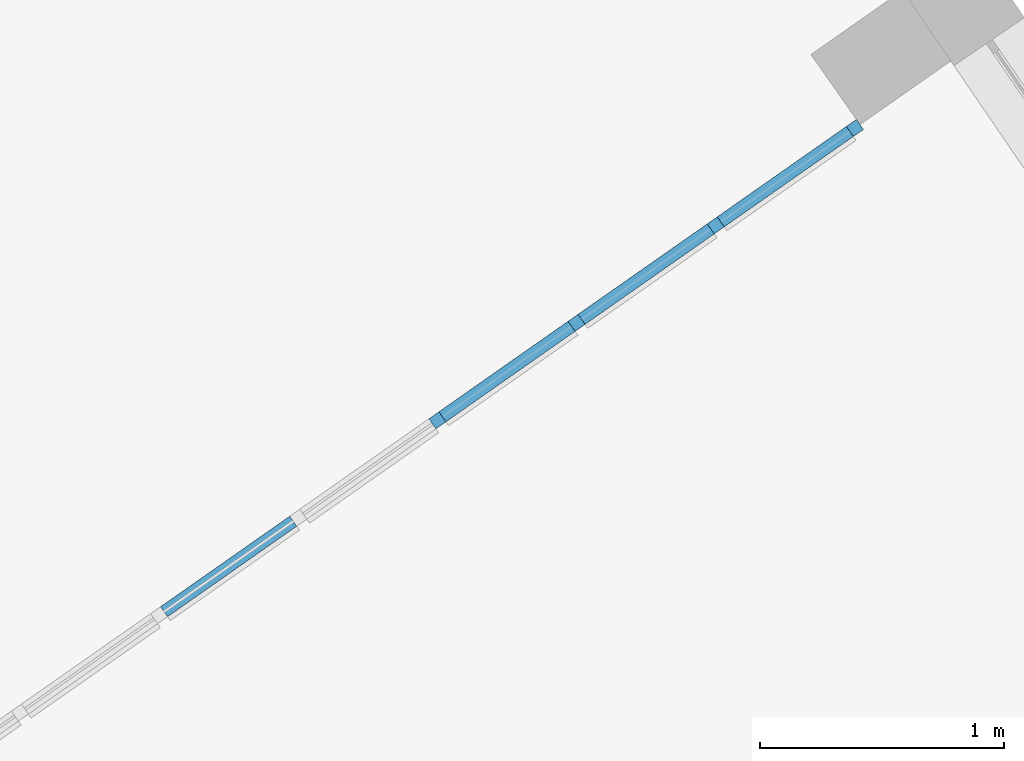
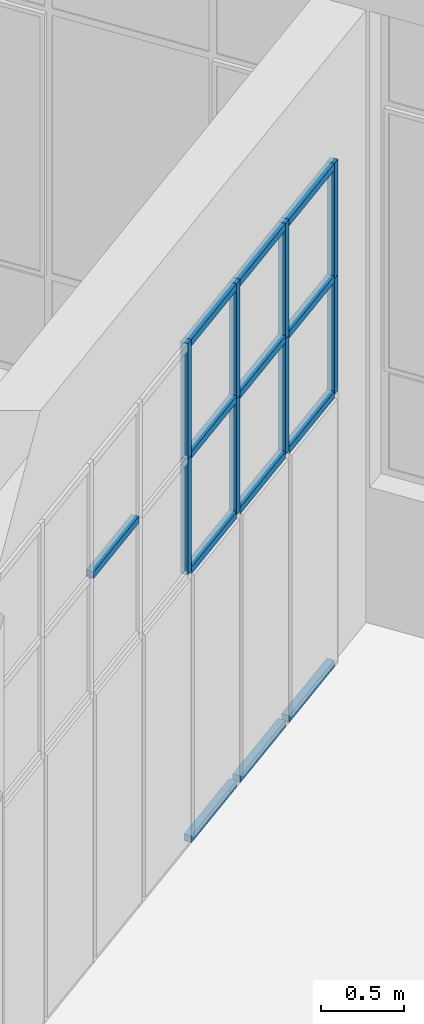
# One storey, part 37 of 157: 21 members, 1 element without a shape of its own.
"""IFC2X3 building model written with IfcOpenShell, lengths in millimetres."""

from ifc_helpers import new_model, entity, si_unit, converted_unit, derived_unit, direction, frame, origin, origin_2d_with_axis, place, context, subcontext, project, spatial, rectangle, extrude, source, transform, mapped, material, type_object, type_shapes, element, aggregate, save


model = new_model("IFC2X3")

# Units and contexts
model_context = context("Model", 3, precision=0.01, world=origin(), true_north=direction((6.123031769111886e-17, 1.0)))
body_context = subcontext(model_context, "Body", "Model", "MODEL_VIEW")
ifc_project = project(units=[si_unit("LENGTHUNIT", "METRE", prefix="MILLI"), si_unit("AREAUNIT", "SQUARE_METRE"), si_unit("VOLUMEUNIT", "CUBIC_METRE"), converted_unit("PLANEANGLEUNIT", "DEGREE", entity("IfcRatioMeasure", 0.017453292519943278), si_unit("PLANEANGLEUNIT", "RADIAN"), dimensions=[0, 0, 0, 0, 0, 0, 0]), si_unit("MASSUNIT", "GRAM", prefix="KILO"), derived_unit("MASSDENSITYUNIT", [(si_unit("MASSUNIT", "GRAM", prefix="KILO"), 1), (si_unit("LENGTHUNIT", "METRE"), -3)]), derived_unit("MOMENTOFINERTIAUNIT", [(si_unit("LENGTHUNIT", "METRE"), 4)]), si_unit("TIMEUNIT", "SECOND"), si_unit("FREQUENCYUNIT", "HERTZ"), si_unit("THERMODYNAMICTEMPERATUREUNIT", "DEGREE_CELSIUS"), derived_unit("THERMALTRANSMITTANCEUNIT", [(si_unit("MASSUNIT", "GRAM", prefix="KILO"), 1), (si_unit("THERMODYNAMICTEMPERATUREUNIT", "KELVIN"), -1), (si_unit("TIMEUNIT", "SECOND"), -3)]), derived_unit("THERMALCONDUCTANCEUNIT", [(si_unit("MASSUNIT", "GRAM", prefix="KILO"), 1), (si_unit("LENGTHUNIT", "METRE"), 1), (si_unit("THERMODYNAMICTEMPERATUREUNIT", "KELVIN"), -1), (si_unit("TIMEUNIT", "SECOND"), -3)]), derived_unit("VOLUMETRICFLOWRATEUNIT", [(si_unit("LENGTHUNIT", "METRE"), 3), (si_unit("TIMEUNIT", "SECOND"), -1)]), derived_unit("MASSFLOWRATEUNIT", [(si_unit("MASSUNIT", "GRAM", prefix="KILO"), 1), (si_unit("TIMEUNIT", "SECOND"), -1)]), derived_unit("ROTATIONALFREQUENCYUNIT", [(si_unit("TIMEUNIT", "SECOND"), -1)]), si_unit("ELECTRICCURRENTUNIT", "AMPERE"), si_unit("ELECTRICVOLTAGEUNIT", "VOLT"), si_unit("POWERUNIT", "WATT"), converted_unit("FORCEUNIT", "KIP", entity("IfcRatioMeasure", 2.088543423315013e-05), si_unit("FORCEUNIT", "NEWTON"), dimensions=[1, 1, -2, 0, 0, 0, 0]), si_unit("ILLUMINANCEUNIT", "LUX"), si_unit("LUMINOUSFLUXUNIT", "LUMEN"), si_unit("LUMINOUSINTENSITYUNIT", "CANDELA"), derived_unit("USERDEFINED", [(si_unit("MASSUNIT", "GRAM", prefix="KILO"), -1), (si_unit("LENGTHUNIT", "METRE"), -2), (si_unit("TIMEUNIT", "SECOND"), 3), (si_unit("LUMINOUSFLUXUNIT", "LUMEN"), 1)]), derived_unit("USERDEFINED", [(si_unit("MASSUNIT", "GRAM", prefix="KILO"), 1), (si_unit("LENGTHUNIT", "METRE"), 3), (si_unit("TIMEUNIT", "SECOND"), -3), (si_unit("ELECTRICCURRENTUNIT", "AMPERE"), -2)]), derived_unit("USERDEFINED", [(si_unit("LENGTHUNIT", "METRE"), 2), (si_unit("TIMEUNIT", "SECOND"), -2)]), derived_unit("SOUNDPOWERUNIT", [(si_unit("MASSUNIT", "GRAM", prefix="KILO"), 1), (si_unit("LENGTHUNIT", "METRE"), 2), (si_unit("TIMEUNIT", "SECOND"), -3)]), derived_unit("SOUNDPRESSUREUNIT", [(si_unit("MASSUNIT", "GRAM", prefix="KILO"), 1), (si_unit("LENGTHUNIT", "METRE"), -1), (si_unit("TIMEUNIT", "SECOND"), -2)]), derived_unit("LINEARVELOCITYUNIT", [(si_unit("LENGTHUNIT", "METRE"), 1), (si_unit("TIMEUNIT", "SECOND"), -1)]), si_unit("PRESSUREUNIT", "PASCAL"), derived_unit("USERDEFINED", [(si_unit("LENGTHUNIT", "METRE"), -2), (si_unit("MASSUNIT", "GRAM", prefix="KILO"), 1), (si_unit("TIMEUNIT", "SECOND"), -2)]), derived_unit("LINEARFORCEUNIT", [(si_unit("MASSUNIT", "GRAM", prefix="KILO"), 1), (si_unit("LENGTHUNIT", "METRE"), 1), (si_unit("TIMEUNIT", "SECOND"), -2), (si_unit("LENGTHUNIT", "METRE"), -1)]), derived_unit("PLANARFORCEUNIT", [(si_unit("MASSUNIT", "GRAM", prefix="KILO"), 1), (si_unit("LENGTHUNIT", "METRE"), 1), (si_unit("TIMEUNIT", "SECOND"), -2), (si_unit("LENGTHUNIT", "METRE"), -2)]), derived_unit("SPECIFICHEATCAPACITYUNIT", [(si_unit("LENGTHUNIT", "METRE"), 2), (si_unit("TIMEUNIT", "SECOND"), -2), (si_unit("THERMODYNAMICTEMPERATUREUNIT", "KELVIN"), -1)]), derived_unit("VAPORPERMEABILITYUNIT", [(si_unit("TIMEUNIT", "SECOND"), 1), (si_unit("LENGTHUNIT", "METRE"), -1)]), derived_unit("DYNAMICVISCOSITYUNIT", [(si_unit("MASSUNIT", "GRAM", prefix="KILO"), 1), (si_unit("LENGTHUNIT", "METRE"), -1), (si_unit("TIMEUNIT", "SECOND"), -1)]), derived_unit("THERMALEXPANSIONCOEFFICIENTUNIT", [(si_unit("THERMODYNAMICTEMPERATUREUNIT", "KELVIN"), -1)])], contexts=[model_context])

# Site, building, storey
site_placement = place(None, frame((0.0, 0.0, 0.0), z_axis=(0.0, 0.0, 1.0), x_axis=(0.8191520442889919, 0.5735764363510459, 0.0)))
site = spatial("IfcSite", under=ifc_project, at=site_placement, Name="Default", CompositionType="ELEMENT")
building_placement = place(site_placement, origin())
building = spatial("IfcBuilding", under=site, at=building_placement, CompositionType="ELEMENT")
storey_placement = place(building_placement, origin())
storey = spatial("IfcBuildingStorey", under=building, at=storey_placement, Name="1.EG +0.00", CompositionType="ELEMENT", Elevation=-4.331468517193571e-12)

# Curtain wall, members
curtain_wall_type = type_object("IfcCurtainWallType", Name="Curtain Wall:Curtain_Wall_CJC_Int5", PredefinedType="NOTDEFINED")
curtain_wall_placement = place(storey_placement, origin())
curtain_wall = element("IfcCurtainWall", 1, at=curtain_wall_placement, inside=storey, type_object=curtain_wall_type, Name="Curtain Wall:Curtain_Wall_CJC_Int5", ObjectType="Curtain Wall:Curtain_Wall_CJC_Int5")
ifc_material = material(Name="Aluminium")
member_type_1 = type_object("IfcMemberType", Name="Rectangular Mullion:5x5", PredefinedType="MULLION", material=ifc_material)
shared_shape_1 = source(origin(), body_context, "Body", "SweptSolid", [
    extrude(rectangle(XDim=50.000000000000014, YDim=50.0, at=origin_2d_with_axis()), frame((-25.0, 0.0, -646.0959133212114), z_axis=(0.0, 0.0, 1.0), x_axis=(0.0, -1.0, 0.0)), (0.0, 0.0, 1.0), 646.0959133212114),
])
type_shapes(member_type_1, [shared_shape_1])
member_1_placement = place(curtain_wall_placement, frame((-206063.9430977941, 79246.35891435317, 3700.0), z_axis=(1.0, 0.0, 0.0), x_axis=(0.0, 0.0, 1.0)))
member_1 = element("IfcMember", 2, at=member_1_placement, type_object=member_type_1, material=ifc_material, Name="Rectangular Mullion:5x5", ObjectType="Rectangular Mullion:5x5", context=body_context, shape_type="MappedRepresentation", body=[
    mapped(shared_shape_1, transform((0.0, 0.0, 0.0), scale=1.0)),
])
member_2_placement = place(curtain_wall_placement, frame((-206760.03901111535, 79246.35891435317, 3700.0), z_axis=(1.0, 0.0, 0.0), x_axis=(0.0, 0.0, 1.0)))
member_2 = element("IfcMember", 3, at=member_2_placement, type_object=member_type_1, material=ifc_material, Name="Rectangular Mullion:5x5", ObjectType="Rectangular Mullion:5x5", context=body_context, shape_type="MappedRepresentation", body=[
    mapped(shared_shape_1, transform((0.0, 0.0, 0.0), scale=1.0)),
])
member_3_placement = place(curtain_wall_placement, frame((-207456.1349241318, 79246.35891435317, 3700.0), z_axis=(1.0, 0.0, 0.0), x_axis=(0.0, 0.0, 1.0)))
member_3 = element("IfcMember", 4, at=member_3_placement, type_object=member_type_1, material=ifc_material, Name="Rectangular Mullion:5x5", ObjectType="Rectangular Mullion:5x5", context=body_context, shape_type="MappedRepresentation", body=[
    mapped(shared_shape_1, transform((0.0, 0.0, 0.0), scale=1.0)),
])
member_type_2 = type_object("IfcMemberType", Name="Rectangular Mullion:5x5", PredefinedType="MULLION", material=ifc_material)
shared_shape_2 = source(origin(), body_context, "Body", "SweptSolid", [
    extrude(rectangle(XDim=50.000000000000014, YDim=50.0, at=origin_2d_with_axis()), frame((-25.0, 0.0, -646.0959133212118), z_axis=(0.0, 0.0, 1.0), x_axis=(0.0, -1.0, 0.0)), (0.0, 0.0, 1.0), 646.0959133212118),
])
type_shapes(member_type_2, [shared_shape_2])
member_4_placement = place(curtain_wall_placement, frame((-207406.13492413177, 79246.35891435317, 0.0), z_axis=(-1.0, 0.0, 0.0), x_axis=(0.0, 0.0, -1.0)))
member_4 = element("IfcMember", 5, at=member_4_placement, type_object=member_type_2, material=ifc_material, Name="Rectangular Mullion:5x5", ObjectType="Rectangular Mullion:5x5", context=body_context, shape_type="MappedRepresentation", body=[
    mapped(shared_shape_2, transform((0.0, 0.0, 0.0), scale=1.0)),
])
member_5_placement = place(curtain_wall_placement, frame((-206710.03901111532, 79246.35891435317, 0.0), z_axis=(-1.0, 0.0, 0.0), x_axis=(0.0, 0.0, -1.0)))
member_5 = element("IfcMember", 6, at=member_5_placement, type_object=member_type_2, material=ifc_material, Name="Rectangular Mullion:5x5", ObjectType="Rectangular Mullion:5x5", context=body_context, shape_type="MappedRepresentation", body=[
    mapped(shared_shape_2, transform((0.0, 0.0, 0.0), scale=1.0)),
])
member_6_placement = place(curtain_wall_placement, frame((-208102.23083714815, 79246.35891435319, 0.0), z_axis=(-1.0, 0.0, 0.0), x_axis=(0.0, 0.0, -1.0)))
member_6 = element("IfcMember", 7, at=member_6_placement, type_object=member_type_2, material=ifc_material, Name="Rectangular Mullion:5x5", ObjectType="Rectangular Mullion:5x5", context=body_context, shape_type="MappedRepresentation", body=[
    mapped(shared_shape_2, transform((0.0, 0.0, 0.0), scale=1.0)),
])
member_type_3 = type_object("IfcMemberType", Name="Rectangular Mullion:5x5", PredefinedType="MULLION", material=ifc_material)
shared_shape_3 = source(origin(), body_context, "Body", "SweptSolid", [
    extrude(rectangle(XDim=50.000000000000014, YDim=50.0, at=origin_2d_with_axis()), frame((-25.0, 0.0, -850.0), z_axis=(0.0, 0.0, 1.0), x_axis=(0.0, -1.0, 0.0)), (0.0, 0.0, 1.0), 850.0),
])
type_shapes(member_type_3, [shared_shape_3])
member_7_placement = place(curtain_wall_placement, frame((-206013.94309779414, 79246.35891435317, 2000.0), z_axis=(0.0, 0.0, -1.0), x_axis=(1.0, 0.0, 0.0)))
member_7 = element("IfcMember", 8, at=member_7_placement, type_object=member_type_3, material=ifc_material, Name="Rectangular Mullion:5x5", ObjectType="Rectangular Mullion:5x5", context=body_context, shape_type="MappedRepresentation", body=[
    mapped(shared_shape_3, transform((0.0, 0.0, 0.0), scale=1.0)),
])
member_type_4 = type_object("IfcMemberType", Name="Rectangular Mullion:5x5", PredefinedType="MULLION", material=ifc_material)
shared_shape_4 = source(origin(), body_context, "Body", "SweptSolid", [
    extrude(rectangle(XDim=50.000000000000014, YDim=50.0, at=origin_2d_with_axis()), frame((-25.0, 0.0, -850.0), z_axis=(0.0, 0.0, 1.0), x_axis=(0.0, -1.0, 0.0)), (0.0, 0.0, 1.0), 850.0),
])
type_shapes(member_type_4, [shared_shape_4])
member_8_placement = place(curtain_wall_placement, frame((-206013.94309779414, 79246.35891435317, 2850.0), z_axis=(0.0, 0.0, -1.0), x_axis=(1.0, 0.0, 0.0)))
member_8 = element("IfcMember", 9, at=member_8_placement, type_object=member_type_4, material=ifc_material, Name="Rectangular Mullion:5x5", ObjectType="Rectangular Mullion:5x5", context=body_context, shape_type="MappedRepresentation", body=[
    mapped(shared_shape_4, transform((0.0, 0.0, 0.0), scale=1.0)),
])
member_type_5 = type_object("IfcMemberType", Name="Rectangular Mullion:5x5", PredefinedType="MULLION", material=ifc_material)
shared_shape_5 = source(origin(), body_context, "Body", "SweptSolid", [
    extrude(rectangle(XDim=50.0, YDim=50.0, at=origin_2d_with_axis()), frame((0.0, 0.0, -646.0959133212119), z_axis=(0.0, 0.0, 1.0), x_axis=(0.0, -1.0, 0.0)), (0.0, 0.0, 1.0), 646.0959133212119),
])
type_shapes(member_type_5, [shared_shape_5])
member_9_placement = place(curtain_wall_placement, frame((-207456.1349241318, 79246.35891435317, 2000.0), z_axis=(1.0, 0.0, 0.0), x_axis=(0.0, 0.0, 1.0)))
member_9 = element("IfcMember", 10, at=member_9_placement, type_object=member_type_5, material=ifc_material, Name="Rectangular Mullion:5x5", ObjectType="Rectangular Mullion:5x5", context=body_context, shape_type="MappedRepresentation", body=[
    mapped(shared_shape_5, transform((0.0, 0.0, 0.0), scale=1.0)),
])
member_10_placement = place(curtain_wall_placement, frame((-206760.03901111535, 79246.35891435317, 2000.0), z_axis=(1.0, 0.0, 0.0), x_axis=(0.0, 0.0, 1.0)))
member_10 = element("IfcMember", 11, at=member_10_placement, type_object=member_type_5, material=ifc_material, Name="Rectangular Mullion:5x5", ObjectType="Rectangular Mullion:5x5", context=body_context, shape_type="MappedRepresentation", body=[
    mapped(shared_shape_5, transform((0.0, 0.0, 0.0), scale=1.0)),
])
member_11_placement = place(curtain_wall_placement, frame((-206063.9430977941, 79246.35891435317, 2000.0), z_axis=(1.0, 0.0, 0.0), x_axis=(0.0, 0.0, 1.0)))
member_11 = element("IfcMember", 12, at=member_11_placement, type_object=member_type_5, material=ifc_material, Name="Rectangular Mullion:5x5", ObjectType="Rectangular Mullion:5x5", context=body_context, shape_type="MappedRepresentation", body=[
    mapped(shared_shape_5, transform((0.0, 0.0, 0.0), scale=1.0)),
])
member_12_placement = place(curtain_wall_placement, frame((-207456.1349241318, 79246.35891435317, 2850.0), z_axis=(1.0, 0.0, 0.0), x_axis=(0.0, 0.0, 1.0)))
member_12 = element("IfcMember", 13, at=member_12_placement, type_object=member_type_5, material=ifc_material, Name="Rectangular Mullion:5x5", ObjectType="Rectangular Mullion:5x5", context=body_context, shape_type="MappedRepresentation", body=[
    mapped(shared_shape_5, transform((0.0, 0.0, 0.0), scale=1.0)),
])
member_13_placement = place(curtain_wall_placement, frame((-206760.03901111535, 79246.35891435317, 2850.0), z_axis=(1.0, 0.0, 0.0), x_axis=(0.0, 0.0, 1.0)))
member_13 = element("IfcMember", 14, at=member_13_placement, type_object=member_type_5, material=ifc_material, Name="Rectangular Mullion:5x5", ObjectType="Rectangular Mullion:5x5", context=body_context, shape_type="MappedRepresentation", body=[
    mapped(shared_shape_5, transform((0.0, 0.0, 0.0), scale=1.0)),
])
member_14_placement = place(curtain_wall_placement, frame((-206063.9430977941, 79246.35891435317, 2850.0), z_axis=(1.0, 0.0, 0.0), x_axis=(0.0, 0.0, 1.0)))
member_14 = element("IfcMember", 15, at=member_14_placement, type_object=member_type_5, material=ifc_material, Name="Rectangular Mullion:5x5", ObjectType="Rectangular Mullion:5x5", context=body_context, shape_type="MappedRepresentation", body=[
    mapped(shared_shape_5, transform((0.0, 0.0, 0.0), scale=1.0)),
])
member_15_placement = place(curtain_wall_placement, frame((-208848.32675016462, 79246.35891435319, 2850.0), z_axis=(1.0, 0.0, 0.0), x_axis=(0.0, 0.0, 1.0)))
member_15 = element("IfcMember", 16, at=member_15_placement, type_object=member_type_5, material=ifc_material, Name="Rectangular Mullion:5x5", ObjectType="Rectangular Mullion:5x5", context=body_context, shape_type="MappedRepresentation", body=[
    mapped(shared_shape_5, transform((0.0, 0.0, 0.0), scale=1.0)),
])
member_type_6 = type_object("IfcMemberType", Name="Rectangular Mullion:5x5", PredefinedType="MULLION", material=ifc_material)
shared_shape_6 = source(origin(), body_context, "Body", "SweptSolid", [
    extrude(rectangle(XDim=50.0, YDim=50.0, at=origin_2d_with_axis()), frame((0.0, 0.0, -850.0), z_axis=(0.0, 0.0, 1.0), x_axis=(0.0, -1.0, 0.0)), (0.0, 0.0, 1.0), 850.0),
])
type_shapes(member_type_6, [shared_shape_6])
member_16_placement = place(curtain_wall_placement, frame((-208127.23083714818, 79246.35891435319, 2000.0), z_axis=(0.0, 0.0, -1.0), x_axis=(1.0, 0.0, 0.0)))
member_16 = element("IfcMember", 17, at=member_16_placement, type_object=member_type_6, material=ifc_material, Name="Rectangular Mullion:5x5", ObjectType="Rectangular Mullion:5x5", context=body_context, shape_type="MappedRepresentation", body=[
    mapped(shared_shape_6, transform((0.0, 0.0, 0.0), scale=1.0)),
])
member_17_placement = place(curtain_wall_placement, frame((-207431.13492413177, 79246.35891435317, 2000.0), z_axis=(0.0, 0.0, -1.0), x_axis=(1.0, 0.0, 0.0)))
member_17 = element("IfcMember", 18, at=member_17_placement, type_object=member_type_6, material=ifc_material, Name="Rectangular Mullion:5x5", ObjectType="Rectangular Mullion:5x5", context=body_context, shape_type="MappedRepresentation", body=[
    mapped(shared_shape_6, transform((0.0, 0.0, 0.0), scale=1.0)),
])
member_18_placement = place(curtain_wall_placement, frame((-206735.03901111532, 79246.35891435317, 2000.0), z_axis=(0.0, 0.0, -1.0), x_axis=(1.0, 0.0, 0.0)))
member_18 = element("IfcMember", 19, at=member_18_placement, type_object=member_type_6, material=ifc_material, Name="Rectangular Mullion:5x5", ObjectType="Rectangular Mullion:5x5", context=body_context, shape_type="MappedRepresentation", body=[
    mapped(shared_shape_6, transform((0.0, 0.0, 0.0), scale=1.0)),
])
member_type_7 = type_object("IfcMemberType", Name="Rectangular Mullion:5x5", PredefinedType="MULLION", material=ifc_material)
shared_shape_7 = source(origin(), body_context, "Body", "SweptSolid", [
    extrude(rectangle(XDim=50.0, YDim=50.0, at=origin_2d_with_axis()), frame((0.0, 0.0, -850.0), z_axis=(0.0, 0.0, 1.0), x_axis=(0.0, -1.0, 0.0)), (0.0, 0.0, 1.0), 850.0),
])
type_shapes(member_type_7, [shared_shape_7])
member_19_placement = place(curtain_wall_placement, frame((-208127.23083714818, 79246.35891435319, 2850.0), z_axis=(0.0, 0.0, -1.0), x_axis=(1.0, 0.0, 0.0)))
member_19 = element("IfcMember", 20, at=member_19_placement, type_object=member_type_7, material=ifc_material, Name="Rectangular Mullion:5x5", ObjectType="Rectangular Mullion:5x5", context=body_context, shape_type="MappedRepresentation", body=[
    mapped(shared_shape_7, transform((0.0, 0.0, 0.0), scale=1.0)),
])
member_20_placement = place(curtain_wall_placement, frame((-207431.13492413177, 79246.35891435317, 2850.0), z_axis=(0.0, 0.0, -1.0), x_axis=(1.0, 0.0, 0.0)))
member_20 = element("IfcMember", 21, at=member_20_placement, type_object=member_type_7, material=ifc_material, Name="Rectangular Mullion:5x5", ObjectType="Rectangular Mullion:5x5", context=body_context, shape_type="MappedRepresentation", body=[
    mapped(shared_shape_7, transform((0.0, 0.0, 0.0), scale=1.0)),
])
member_21_placement = place(curtain_wall_placement, frame((-206735.03901111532, 79246.35891435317, 2850.0), z_axis=(0.0, 0.0, -1.0), x_axis=(1.0, 0.0, 0.0)))
member_21 = element("IfcMember", 22, at=member_21_placement, type_object=member_type_7, material=ifc_material, Name="Rectangular Mullion:5x5", ObjectType="Rectangular Mullion:5x5", context=body_context, shape_type="MappedRepresentation", body=[
    mapped(shared_shape_7, transform((0.0, 0.0, 0.0), scale=1.0)),
])
aggregate(curtain_wall, [member_1, member_2, member_4, member_5, member_7, member_8, member_3, member_6, member_9, member_10, member_11, member_12, member_13, member_14, member_16, member_17, member_18, member_19, member_20, member_21, member_15])

save(model, "model.ifc")
